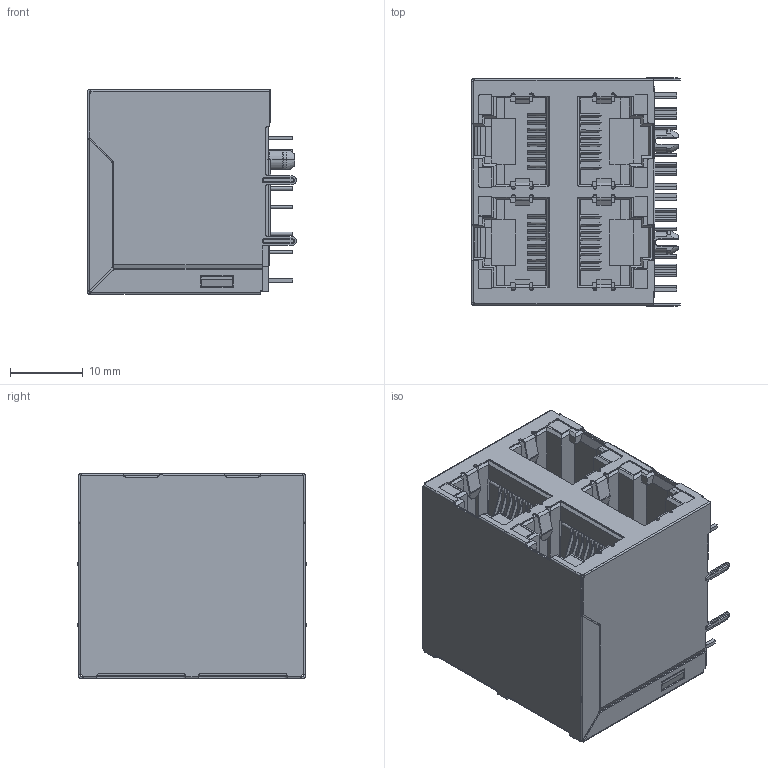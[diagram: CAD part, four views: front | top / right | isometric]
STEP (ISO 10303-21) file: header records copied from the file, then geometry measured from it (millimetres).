
FILE_DESCRIPTION(('CATIA V5 STEP Exchange'),'2;1');
FILE_NAME('F:\小黄\网口\RJ45\059D\2x2-2-04\HC-RJ45-059D-2x2-2-04 (2x2 带灯无弹-HCTL).stp','2025-09-22T06:46:53+00:00',('none'),('none'),'CATIA Version 5 Release 20 GA (IN-10)','CATIA V5 STEP AP203','none');
FILE_SCHEMA(('CONFIG_CONTROL_DESIGN'));
Products named in the file (1): 产品1
Assembly tree (7 placements, depth 2):
  产品1
    #58
    #12672
    #25295
    #42292
    #116273  x2
    #120524
Bounding box: 28.75 x 31.46 x 28.2 mm (x, y, z)
Volume: 12172.7 mm3; surface area: 32539.3 mm2
Topology: 52 solids, 52 shells, 3738 faces, 10586 edges, 6825 vertices
Faces by surface type: plane 2433, cylinder 903, torus 200, cone 118, bspline 80, sphere 4
Entity records: 120804 total; most frequent: CARTESIAN_POINT 30645, ORIENTED_EDGE 20434, DIRECTION 15766, EDGE_CURVE 10217, VECTOR 7458, LINE 7458, VERTEX_POINT 6585, AXIS2_PLACEMENT_3D 4912
